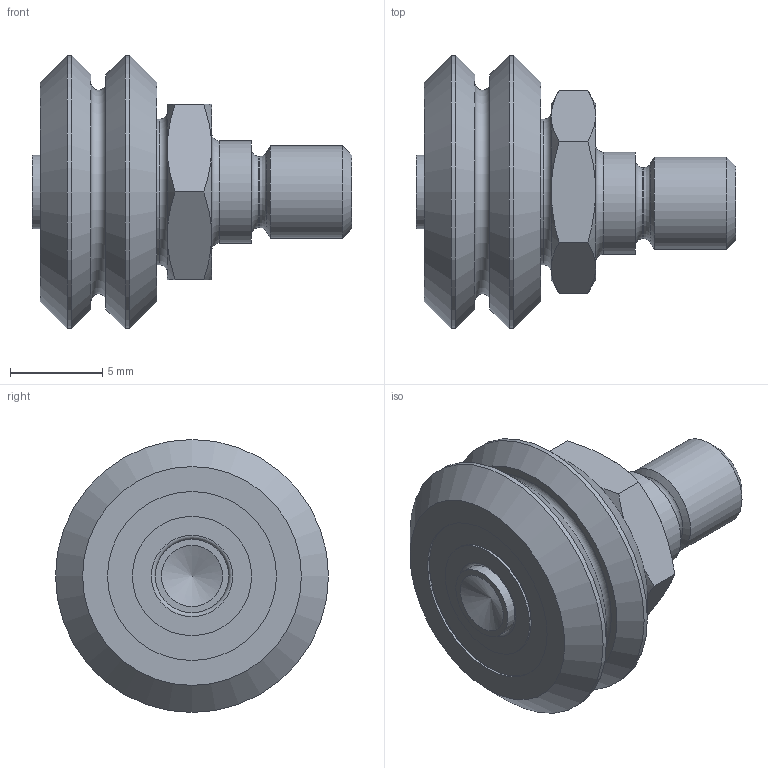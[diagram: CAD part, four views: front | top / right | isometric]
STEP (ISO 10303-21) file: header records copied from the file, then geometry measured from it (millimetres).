
FILE_DESCRIPTION( ( 'STEP AP214' ), '1' );
FILE_NAME( 'p:/temp/worker_34/temp/app_45_02019012316041866550865192d056f_000000_00_00_000000/format_0/SWSE0XA.stp', '2019-01-23T15:04:19', ( '' ), ( '' ), ' ', 'PARTsolutions', ' ' );
FILE_SCHEMA( ( 'AUTOMOTIVE_DESIGN { 1 0 10303 214 1 1 1 1 }' ) );
Length unit declared in the file: inch
Products named in the file (3): SWSE0XA; _SWSE0; _W0X
Assembly tree (2 placements, depth 2):
  SWSE0XA
    _SWSE0
    _W0X
Bounding box: 17.37 x 14.83 x 14.83 mm (x, y, z)
Volume: 1247.2 mm3; surface area: 1176.9 mm2
Topology: 2 solids, 2 shells, 67 faces, 121 edges, 72 vertices
Faces by surface type: plane 24, cone 19, cylinder 16, torus 8
Full cylindrical faces by diameter (mm): 3.861 x1, 3.99 x1, 4 x1, 5 x1, 5.563 x1, 6.223 x2, 6.477 x2, 7.925 x1, 9.182 x2, 9.436 x2, 14.834 x2
Entity records: 2132 total; most frequent: CARTESIAN_POINT 351, DIRECTION 264, ORIENTED_EDGE 178, AXIS2_PLACEMENT_3D 129, EDGE_LOOP 114, FACE_OUTER_BOUND 91, EDGE_CURVE 89, VERTEX_POINT 72
